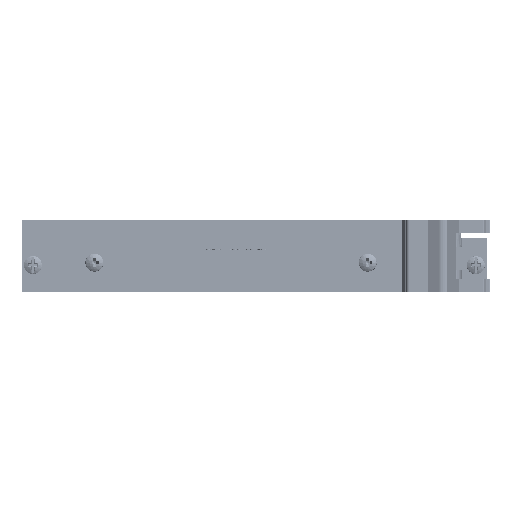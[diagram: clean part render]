
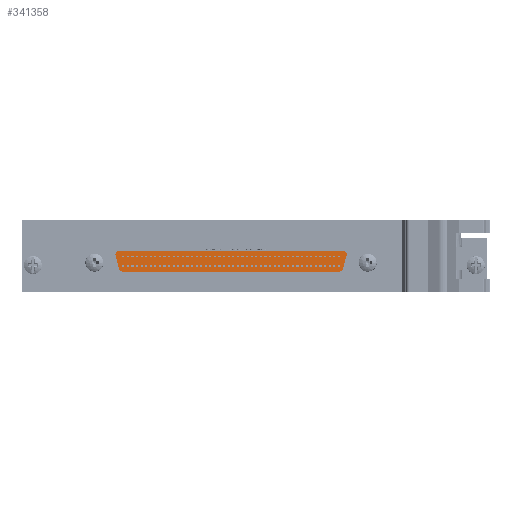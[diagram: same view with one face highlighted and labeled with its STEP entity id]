
A CAD part, left-side view. The second image highlights one B-rep face of the part: STEP entity #341358.
In plain terms, the highlighted planar face has unit normal (-1, 0, 0).
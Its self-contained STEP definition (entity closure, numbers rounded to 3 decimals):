
#281 = CARTESIAN_POINT ( 'NONE',  ( 5.966, 2.988, 31.032 ) ) ;
#518 = DIRECTION ( 'NONE',  ( -1., 0., 0. ) ) ;
#1630 = VECTOR ( 'NONE', #467392, 1000. ) ;
#3822 = CARTESIAN_POINT ( 'NONE',  ( 5.966, 7.688, 33.024 ) ) ;
#5217 = LINE ( 'NONE', #281, #1630 ) ;
#13109 = CIRCLE ( 'NONE', #406221, 1. ) ;
#13389 = VERTEX_POINT ( 'NONE', #195478 ) ;
#21141 = CARTESIAN_POINT ( 'NONE',  ( 5.966, 7.688, 32.024 ) ) ;
#22767 = AXIS2_PLACEMENT_3D ( 'NONE', #105972, #143788, #495015 ) ;
#23978 = VERTEX_POINT ( 'NONE', #195962 ) ;
#28320 = VERTEX_POINT ( 'NONE', #478223 ) ;
#40244 = EDGE_CURVE ( 'NONE', #227079, #188926, #149239, .T. ) ;
#52369 = EDGE_CURVE ( 'NONE', #319715, #99003, #189822, .T. ) ;
#56435 = FACE_OUTER_BOUND ( 'NONE', #394213, .T. ) ;
#62241 = CARTESIAN_POINT ( 'NONE',  ( 5.966, 8.688, -30.036 ) ) ;
#70112 = AXIS2_PLACEMENT_3D ( 'NONE', #21141, #144407, #297458 ) ;
#80736 = EDGE_CURVE ( 'NONE', #99003, #227079, #351734, .T. ) ;
#82727 = DIRECTION ( 'NONE',  ( 0., 0., 1. ) ) ;
#84306 = ORIENTED_EDGE ( 'NONE', *, *, #40244, .T. ) ;
#94476 = ORIENTED_EDGE ( 'NONE', *, *, #80736, .T. ) ;
#99003 = VERTEX_POINT ( 'NONE', #266302 ) ;
#105972 = CARTESIAN_POINT ( 'NONE',  ( 5.966, 3.988, -29.045 ) ) ;
#117804 = CARTESIAN_POINT ( 'NONE',  ( 5.966, 3.729, -30.011 ) ) ;
#122167 = ORIENTED_EDGE ( 'NONE', *, *, #451921, .T. ) ;
#137819 = LINE ( 'NONE', #62241, #279154 ) ;
#143788 = DIRECTION ( 'NONE',  ( -1., 0., 0. ) ) ;
#144407 = DIRECTION ( 'NONE',  ( -1., 0., 0. ) ) ;
#149239 = CIRCLE ( 'NONE', #493949, 1. ) ;
#170281 = EDGE_CURVE ( 'NONE', #23978, #319715, #202573, .T. ) ;
#182810 = EDGE_CURVE ( 'NONE', #13389, #227569, #395571, .T. ) ;
#188926 = VERTEX_POINT ( 'NONE', #324009 ) ;
#189822 = LINE ( 'NONE', #453675, #351777 ) ;
#191352 = AXIS2_PLACEMENT_3D ( 'NONE', #344795, #518, #467625 ) ;
#195478 = CARTESIAN_POINT ( 'NONE',  ( 5.966, 7.429, -31.002 ) ) ;
#195962 = CARTESIAN_POINT ( 'NONE',  ( 5.966, 2.988, 31.032 ) ) ;
#202020 = CARTESIAN_POINT ( 'NONE',  ( 5.966, 7.429, -31.002 ) ) ;
#202573 = CIRCLE ( 'NONE', #210866, 1. ) ;
#210866 = AXIS2_PLACEMENT_3D ( 'NONE', #232274, #385563, #347896 ) ;
#227079 = VERTEX_POINT ( 'NONE', #3822 ) ;
#227569 = VERTEX_POINT ( 'NONE', #117804 ) ;
#232274 = CARTESIAN_POINT ( 'NONE',  ( 5.966, 3.988, 31.032 ) ) ;
#249353 = EDGE_CURVE ( 'NONE', #188926, #271430, #137819, .T. ) ;
#266302 = CARTESIAN_POINT ( 'NONE',  ( 5.966, 7.429, 32.99 ) ) ;
#271430 = VERTEX_POINT ( 'NONE', #436464 ) ;
#279154 = VECTOR ( 'NONE', #366219, 1000. ) ;
#280698 = ORIENTED_EDGE ( 'NONE', *, *, #249353, .T. ) ;
#292600 = ORIENTED_EDGE ( 'NONE', *, *, #442804, .T. ) ;
#297458 = DIRECTION ( 'NONE',  ( 0., 0., 1. ) ) ;
#299614 = ORIENTED_EDGE ( 'NONE', *, *, #52369, .T. ) ;
#299893 = DIRECTION ( 'NONE',  ( 0., 0., -1. ) ) ;
#319715 = VERTEX_POINT ( 'NONE', #321612 ) ;
#321612 = CARTESIAN_POINT ( 'NONE',  ( 5.966, 3.729, 31.998 ) ) ;
#324009 = CARTESIAN_POINT ( 'NONE',  ( 5.966, 8.688, 32.024 ) ) ;
#340089 = DIRECTION ( 'NONE',  ( -1., 0., 0. ) ) ;
#341358 = ADVANCED_FACE ( 'NONE', ( #56435 ), #407990, .T. ) ;
#344795 = CARTESIAN_POINT ( 'NONE',  ( 5.966, 7.688, 32.024 ) ) ;
#347896 = DIRECTION ( 'NONE',  ( 0., 0., 1. ) ) ;
#351734 = CIRCLE ( 'NONE', #191352, 1. ) ;
#351777 = VECTOR ( 'NONE', #380831, 1000. ) ;
#366219 = DIRECTION ( 'NONE',  ( 0., 0., -1. ) ) ;
#380831 = DIRECTION ( 'NONE',  ( 0., 0.966, 0.259 ) ) ;
#385563 = DIRECTION ( 'NONE',  ( -1., 0., 0. ) ) ;
#389094 = DIRECTION ( 'NONE',  ( -1., 0., 0. ) ) ;
#394213 = EDGE_LOOP ( 'NONE', ( #94476, #84306, #280698, #292600, #423814, #122167, #490397, #429424, #299614 ) ) ;
#395571 = LINE ( 'NONE', #202020, #429750 ) ;
#406221 = AXIS2_PLACEMENT_3D ( 'NONE', #490699, #340089, #299893 ) ;
#407990 = PLANE ( 'NONE',  #70112 ) ;
#423814 = ORIENTED_EDGE ( 'NONE', *, *, #182810, .T. ) ;
#429163 = CARTESIAN_POINT ( 'NONE',  ( 5.966, 7.688, 32.024 ) ) ;
#429424 = ORIENTED_EDGE ( 'NONE', *, *, #170281, .T. ) ;
#429750 = VECTOR ( 'NONE', #478305, 1000. ) ;
#436464 = CARTESIAN_POINT ( 'NONE',  ( 5.966, 8.688, -30.036 ) ) ;
#439480 = CIRCLE ( 'NONE', #22767, 1. ) ;
#442804 = EDGE_CURVE ( 'NONE', #271430, #13389, #13109, .T. ) ;
#451921 = EDGE_CURVE ( 'NONE', #227569, #28320, #439480, .T. ) ;
#453675 = CARTESIAN_POINT ( 'NONE',  ( 5.966, 7.429, 32.99 ) ) ;
#467392 = DIRECTION ( 'NONE',  ( 0., 0., 1. ) ) ;
#467625 = DIRECTION ( 'NONE',  ( 0., 0., 1. ) ) ;
#478223 = CARTESIAN_POINT ( 'NONE',  ( 5.966, 2.988, -29.045 ) ) ;
#478305 = DIRECTION ( 'NONE',  ( 0., -0.966, 0.259 ) ) ;
#487847 = EDGE_CURVE ( 'NONE', #28320, #23978, #5217, .T. ) ;
#490397 = ORIENTED_EDGE ( 'NONE', *, *, #487847, .T. ) ;
#490699 = CARTESIAN_POINT ( 'NONE',  ( 5.966, 7.688, -30.036 ) ) ;
#493949 = AXIS2_PLACEMENT_3D ( 'NONE', #429163, #389094, #82727 ) ;
#495015 = DIRECTION ( 'NONE',  ( 0., 0., -1. ) ) ;
